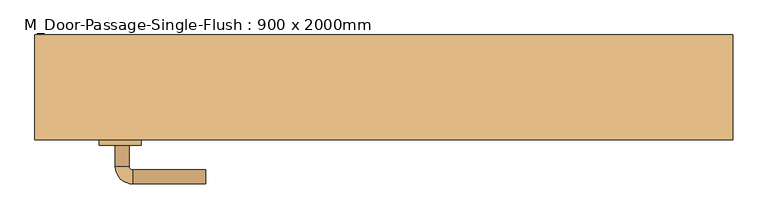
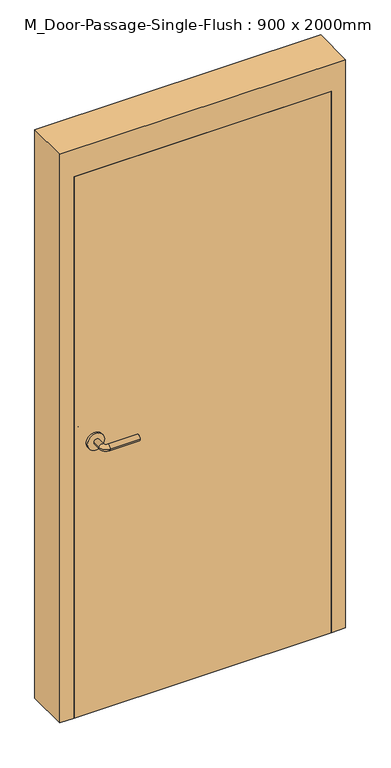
"""IFC4 building model written with IfcOpenShell, lengths in millimetres: door geometry, M_Door-Passage-Single-Flush : 900 x 2000mm."""

from ifc_helpers import new_model, si_unit, point, frame, frame_2d, origin, origin_with_axes, place, context, project, spatial, polyline, circle_curve, ellipse_curve, trimmed, segment, composite_curve, outline, extrude, faceted_brep, source, transform, mapped, element, save
from ifc_brep_helpers import plane_surface, cylinder_surface, revolved_surface, advanced_brep


def m_door_passage_single_flush_900_x_2000mm_14e2eb9a(model_context):
    return source(origin(), model_context, "Body", "SolidModel", [
        advanced_brep(
        [(-384.990625, 2.4, 1000.0), (-364.990625, 2.4, 1000.0), (-384.990625, 32.4, 1000.0), (-364.990625, 32.4, 1000.0), (-359.990625, 37.4, 1000.0), (-359.990625, 57.4, 1000.0), (-254.990625, 57.4, 1000.0), (-254.990625, 37.4, 1000.0)],
        [
            (0, 1, circle_curve(frame((-374.990625, 2.4, 1000.0), z_axis=(0.0, -1.0, 0.0), x_axis=(1.0, 0.0, 0.0)), 10.0)),
            (1, 0, circle_curve(frame((-374.990625, 2.4, 1000.0), z_axis=(0.0, -1.0, 0.0), x_axis=(1.0, 0.0, 0.0)), 10.0)),
            (0, 2),
            (2, 3, circle_curve(frame((-374.990625, 32.4, 1000.0), z_axis=(0.0, -1.0, 0.0), x_axis=(1.0, 0.0, 0.0)), 10.0)),
            (3, 1),
            (3, 2, circle_curve(frame((-374.990625, 32.4, 1000.0), z_axis=(0.0, -1.0, 0.0), x_axis=(1.0, 0.0, 0.0)), 10.0)),
            (4, 3, circle_curve(frame((-359.990625, 32.4, 1000.0), z_axis=(0.0, 0.0, 1.0), x_axis=(-1.0, 0.0, 0.0)), 5.0)),
            (2, 5, circle_curve(frame((-359.990625, 32.4, 1000.0), z_axis=(0.0, 0.0, -1.0), x_axis=(-1.0, 0.0, 0.0)), 25.0)),
            (5, 4, circle_curve(frame((-359.990625, 47.4, 1000.0), z_axis=(-1.0, 0.0, 0.0), x_axis=(0.0, -1.0, 0.0)), 10.0)),
            (4, 5, circle_curve(frame((-359.990625, 47.4, 1000.0), z_axis=(-1.0, 0.0, 0.0), x_axis=(0.0, -1.0, 0.0)), 10.0)),
            (6, 7, circle_curve(frame((-254.990625, 47.4, 1000.0), z_axis=(1.0, 0.0, 0.0), x_axis=(0.0, -1.0, 0.0)), 10.0)),
            (7, 6, circle_curve(frame((-254.990625, 47.4, 1000.0), z_axis=(1.0, 0.0, 0.0), x_axis=(0.0, -1.0, 0.0)), 10.0)),
            (5, 6),
            (7, 4),
        ],
        [
            plane_surface(frame((-374.990625, 2.4, 1000.0), z_axis=(0.0, -1.0, 0.0), x_axis=(0.0, 0.0, 1.0))),
            cylinder_surface(frame((-374.990625, 2.4, 1000.0), z_axis=(0.0, -1.0, 0.0), x_axis=(1.0, 0.0, 0.0)), 10.0),
            revolved_surface(trimmed(ellipse_curve(frame((-374.990625, 32.4, 1000.0), z_axis=(0.0, -1.0, 0.0), x_axis=(1.0, 0.0, 0.0)), 10.0, 10.0), [point((-384.990625, 32.4, 1000.0))], [point((-364.990625, 32.4, 1000.0))], True, "CARTESIAN"), (-359.990625, 32.4, 1000.0), (0.0, 0.0, -1.0)),
            revolved_surface(trimmed(ellipse_curve(frame((-374.990625, 32.4, 1000.0), z_axis=(0.0, -1.0, 0.0), x_axis=(1.0, 0.0, 0.0)), 10.0, 10.0), [point((-364.990625, 32.4, 1000.0))], [point((-384.990625, 32.4, 1000.0))], True, "CARTESIAN"), (-359.990625, 32.4, 1000.0), (0.0, 0.0, -1.0)),
            plane_surface(frame((-254.990625, 47.4, 1000.0), z_axis=(1.0, 0.0, 0.0), x_axis=(0.0, 0.0, 1.0))),
            cylinder_surface(frame((-359.990625, 47.4, 1000.0), z_axis=(-1.0, 0.0, 0.0), x_axis=(0.0, -1.0, 0.0)), 10.0),
        ],
        [
            (0, [[1, 2]]),
            (1, [[-1, 3, 4, 5]]),
            (1, [[-2, -5, 6, -3]]),
            (2, [[7, -4, 8, 9]]),
            (3, [[-8, -6, -7, 10]]),
            (4, [[11, 12]]),
            (5, [[-9, 13, -12, 14]]),
            (5, [[-10, -14, -11, -13]]),
        ],
    ),
        extrude(outline(composite_curve([segment(trimmed(circle_curve(frame_2d((1000.0, -377.490625)), 30.0), [point((1000.0, -407.490625))], [point((1000.0, -347.490625))], False, "CARTESIAN"), True, "CONTINUOUS"), segment(trimmed(circle_curve(frame_2d((1000.0, -377.490625)), 30.0), [point((1000.0, -347.490625))], [point((1000.0, -407.490625))], False, "CARTESIAN"), True, "CONTINUOUS")], self_intersect=False)), frame((0.0, -5.6, 0.0), z_axis=(0.0, 1.0, 0.0), x_axis=(0.0, 0.0, 1.0)), (0.0, 0.0, 1.0), 8.0),
        advanced_brep(
        [(-384.990625, -58.6, 1000.0), (-364.990625, -58.6, 1000.0), (-364.990625, -88.6, 1000.0), (-384.990625, -88.6, 1000.0), (-359.990625, -93.6, 1000.0), (-359.990625, -113.6, 1000.0), (-254.990625, -113.6, 1000.0), (-254.990625, -93.6, 1000.0)],
        [
            (0, 1, circle_curve(frame((-374.990625, -58.6, 1000.0), z_axis=(0.0, 1.0, 0.0), x_axis=(1.0, 0.0, 0.0)), 10.0)),
            (1, 0, circle_curve(frame((-374.990625, -58.6, 1000.0), z_axis=(0.0, 1.0, 0.0), x_axis=(1.0, 0.0, 0.0)), 10.0)),
            (1, 2),
            (2, 3, circle_curve(frame((-374.990625, -88.6, 1000.0), z_axis=(0.0, 1.0, 0.0), x_axis=(1.0, 0.0, 0.0)), 10.0)),
            (3, 0),
            (3, 2, circle_curve(frame((-374.990625, -88.6, 1000.0), z_axis=(0.0, 1.0, 0.0), x_axis=(1.0, 0.0, 0.0)), 10.0)),
            (4, 5, circle_curve(frame((-359.990625, -103.6, 1000.0), z_axis=(-1.0, 0.0, 0.0), x_axis=(0.0, 1.0, 0.0)), 10.0)),
            (5, 3, circle_curve(frame((-359.990625, -88.6, 1000.0), z_axis=(0.0, 0.0, -1.0), x_axis=(-1.0, 0.0, 0.0)), 25.0)),
            (2, 4, circle_curve(frame((-359.990625, -88.6, 1000.0), z_axis=(0.0, 0.0, 1.0), x_axis=(-1.0, 0.0, 0.0)), 5.0)),
            (5, 4, circle_curve(frame((-359.990625, -103.6, 1000.0), z_axis=(-1.0, 0.0, 0.0), x_axis=(0.0, 1.0, 0.0)), 10.0)),
            (6, 7, circle_curve(frame((-254.990625, -103.6, 1000.0), z_axis=(1.0, 0.0, 0.0), x_axis=(0.0, 1.0, 0.0)), 10.0)),
            (7, 6, circle_curve(frame((-254.990625, -103.6, 1000.0), z_axis=(1.0, 0.0, 0.0), x_axis=(0.0, 1.0, 0.0)), 10.0)),
            (4, 7),
            (6, 5),
        ],
        [
            plane_surface(frame((-374.990625, -58.6, 1000.0), z_axis=(0.0, 1.0, 0.0), x_axis=(0.0, 0.0, 1.0))),
            cylinder_surface(frame((-374.990625, -58.6, 1000.0), z_axis=(0.0, 1.0, 0.0), x_axis=(1.0, 0.0, 0.0)), 10.0),
            revolved_surface(trimmed(ellipse_curve(frame((-374.990625, -88.6, 1000.0), z_axis=(0.0, -1.0, 0.0), x_axis=(1.0, 0.0, 0.0)), 10.0, 10.0), [point((-384.990625, -88.6, 1000.0))], [point((-364.990625, -88.6, 1000.0))], True, "CARTESIAN"), (-359.990625, -88.6, 1000.0), (0.0, 0.0, -1.0)),
            revolved_surface(trimmed(ellipse_curve(frame((-374.990625, -88.6, 1000.0), z_axis=(0.0, -1.0, 0.0), x_axis=(1.0, 0.0, 0.0)), 10.0, 10.0), [point((-364.990625, -88.6, 1000.0))], [point((-384.990625, -88.6, 1000.0))], True, "CARTESIAN"), (-359.990625, -88.6, 1000.0), (0.0, 0.0, -1.0)),
            plane_surface(frame((-254.990625, -103.6, 1000.0), z_axis=(1.0, 0.0, 0.0), x_axis=(0.0, 0.0, 1.0))),
            cylinder_surface(frame((-359.990625, -103.6, 1000.0), z_axis=(-1.0, 0.0, 0.0), x_axis=(0.0, 1.0, 0.0)), 10.0),
        ],
        [
            (0, [[1, 2]]),
            (1, [[3, 4, 5, -2]]),
            (1, [[-5, 6, -3, -1]]),
            (2, [[7, 8, -4, 9]]),
            (3, [[10, -9, -6, -8]]),
            (4, [[11, 12]]),
            (5, [[13, -11, 14, -7]]),
            (5, [[-14, -12, -13, -10]]),
        ],
    ),
        extrude(outline(composite_curve([segment(trimmed(circle_curve(frame_2d((1000.0, -377.490625)), 30.0), [point((1000.0, -407.490625))], [point((1000.0, -347.490625))], False, "CARTESIAN"), True, "CONTINUOUS"), segment(trimmed(circle_curve(frame_2d((1000.0, -377.490625)), 30.0), [point((1000.0, -347.490625))], [point((1000.0, -407.490625))], False, "CARTESIAN"), True, "CONTINUOUS")], self_intersect=False)), frame((0.0, -58.6, 0.0), z_axis=(0.0, 1.0, 0.0), x_axis=(0.0, 0.0, 1.0)), (0.0, 0.0, 1.0), 8.0),
        faceted_brep([(450.0, -0.8375, 0.0), (434.125, -0.8375, 0.0), (434.125, 50.1875, 0.0), (450.0, 50.1875, 0.0), (450.0, 99.4, 0.0), (500.0, 99.4, 0.0), (500.0, -50.6, 0.0), (450.0, -50.6, 0.0), (450.0, -50.6, 2000.0), (450.0, -0.8375, 2000.0), (500.0, -50.6, 2100.0), (-500.0, -50.6, 2100.0), (-500.0, -50.6, 0.0), (-450.0, -50.6, 0.0), (-450.0, -50.6, 2000.0), (500.0, 99.4, 2100.0), (450.0, 99.4, 2000.0), (-450.0, 99.4, 2000.0), (-450.0, 99.4, 0.0), (-500.0, 99.4, 0.0), (-500.0, 99.4, 2100.0), (450.0, 50.1875, 2000.0), (434.125, 50.1875, 1984.125), (-434.125, 50.1875, 1984.125), (-434.125, 50.1875, 0.0), (-450.0, 50.1875, 0.0), (-450.0, 50.1875, 2000.0), (434.125, -0.8375, 1984.125), (-450.0, -0.8375, 2000.0), (-450.0, -0.8375, 0.0), (-434.125, -0.8375, 0.0), (-434.125, -0.8375, 1984.125)], [[[0, 1, 2, 3, 4, 5, 6, 7]], [[7, 8, 9, 0]], [[6, 10, 11, 12, 13, 14, 8, 7]], [[5, 15, 10, 6]], [[4, 16, 17, 18, 19, 20, 15, 5]], [[3, 21, 16, 4]], [[2, 22, 23, 24, 25, 26, 21, 3]], [[1, 27, 22, 2]], [[0, 9, 28, 29, 30, 31, 27, 1]], [[8, 14, 28, 9]], [[16, 21, 26, 17]], [[22, 27, 31, 23]], [[12, 19, 18, 25, 24, 30, 29, 13]], [[13, 29, 28, 14]], [[11, 20, 19, 12]], [[17, 26, 25, 18]], [[23, 31, 30, 24]], [[15, 20, 11, 10]]]),
        extrude(outline(polyline([(450.0, -5.6), (450.0, -50.6), (-450.0, -50.6), (-450.0, -5.6), (450.0, -5.6)])), origin_with_axes(), (0.0, 0.0, 1.0), 2000.0),
    ])


if __name__ == "__main__":
    model = new_model("IFC4")
    model_context = context("Model", 3, world=origin())
    ifc_project = project(units=[si_unit("LENGTHUNIT", "METRE", prefix="MILLI")], contexts=[model_context])
    site = spatial("IfcSite", under=ifc_project)
    building = spatial("IfcBuilding", under=site)
    placement = place(None, origin())
    m_door_passage_single_flush_900_x_2000mm_shape = m_door_passage_single_flush_900_x_2000mm_14e2eb9a(model_context)
    element("IfcDoor", 1, ObjectType="M_Door-Passage-Single-Flush : 900 x 2000mm", at=placement, inside=building, context=model_context, shape_type="MappedRepresentation", body=[
        mapped(m_door_passage_single_flush_900_x_2000mm_shape, transform((0.0, 0.0, 0.0), x_axis=(1.0, 0.0, 0.0), y_axis=(0.0, 1.0, 0.0), z_axis=(0.0, 0.0, 1.0))),
    ])
    save(model, "model.ifc")
